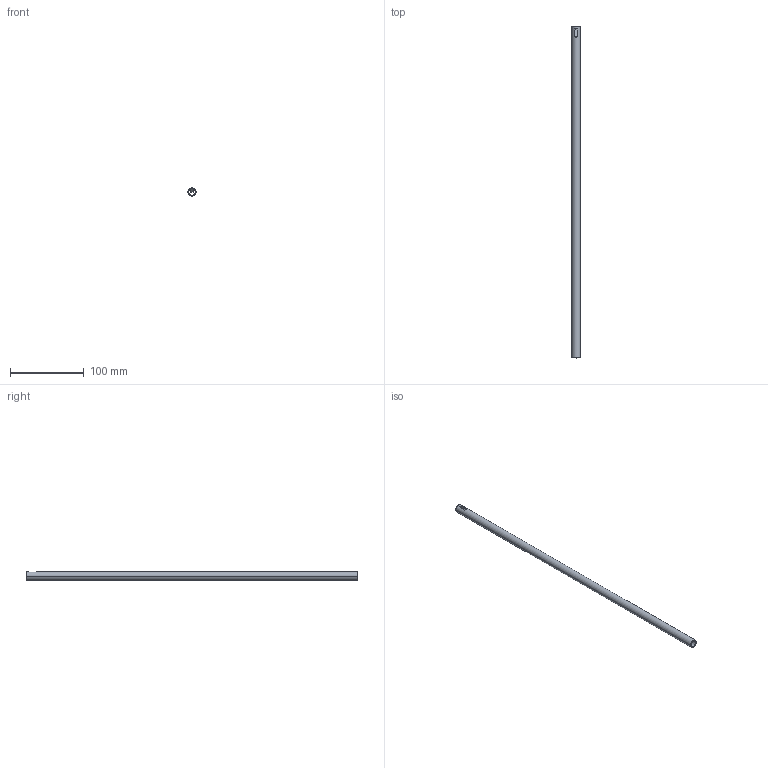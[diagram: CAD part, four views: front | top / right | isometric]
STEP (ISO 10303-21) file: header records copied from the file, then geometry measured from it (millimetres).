
FILE_DESCRIPTION (( 'STEP AP214' ), '1' );
FILE_NAME ('Relingsrohr_2S-Rundrel_Interwood_P760604300_480.step', '2010-09-07T12:59:34', ( 'grass' ), ( '' ), 'SwSTEP 2.0', 'SolidWorks 2010', '' );
FILE_SCHEMA (( 'AUTOMOTIVE_DESIGN' ));
Length unit declared in the file: millimetre
Products named in the file (1): Relingsrohr_2S-Rundrel_Interwood_P760604300_480
Bounding box: 11 x 449 x 11 mm (x, y, z)
Volume: 14103.5 mm3; surface area: 28314.8 mm2
Topology: 1 solids, 1 shells, 14 faces, 34 edges, 22 vertices
Faces by surface type: plane 10, cylinder 4
Entity records: 476 total; most frequent: CARTESIAN_POINT 77, DIRECTION 72, ORIENTED_EDGE 68, EDGE_CURVE 34, AXIS2_PLACEMENT_3D 25, LINE 22, VECTOR 22, VERTEX_POINT 22
